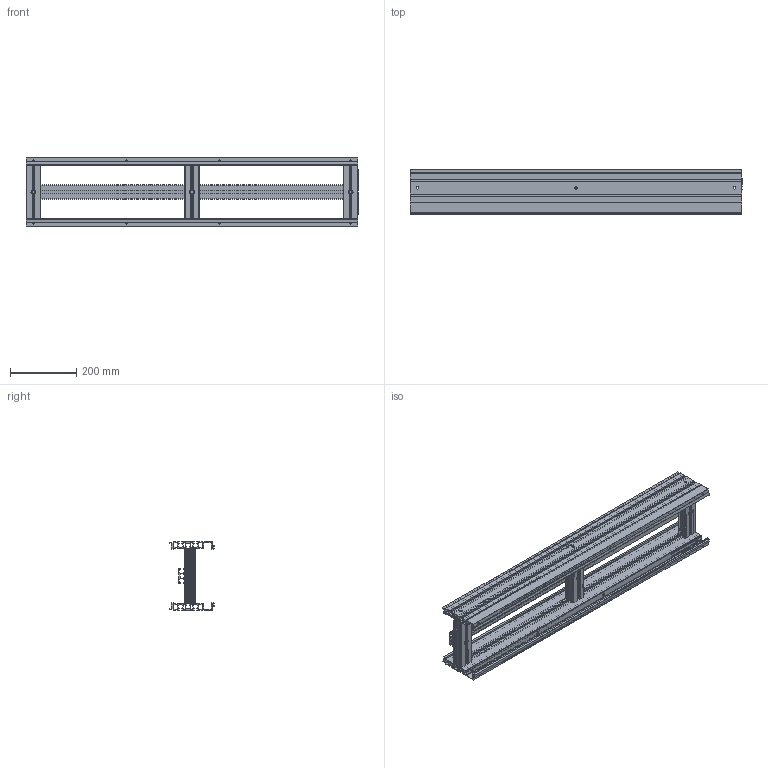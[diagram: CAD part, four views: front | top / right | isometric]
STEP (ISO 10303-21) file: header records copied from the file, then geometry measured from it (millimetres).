
FILE_DESCRIPTION (( 'STEP AP203' ), '1' );
FILE_NAME ('2000.750.003.STEP', '2015-04-15T14:26:21', ( '' ), ( '' ), 'SwSTEP 2.0', 'SolidWorks 2012', '' );
FILE_SCHEMA (( 'CONFIG_CONTROL_DESIGN' ));
Length unit declared in the file: millimetre
Products named in the file (1): 2000.750.003
Bounding box: 1000 x 134.24 x 205 mm (x, y, z)
Volume: 2531040.3 mm3; surface area: 1910853.3 mm2
Topology: 12 solids, 12 shells, 709 faces, 2072 edges, 1362 vertices
Faces by surface type: plane 429, cylinder 264, cone 16
Entity records: 25045 total; most frequent: CARTESIAN_POINT 5752, ORIENTED_EDGE 4144, DIRECTION 3900, EDGE_CURVE 2072, LINE 1440, VECTOR 1440, VERTEX_POINT 1362, AXIS2_PLACEMENT_3D 1230
